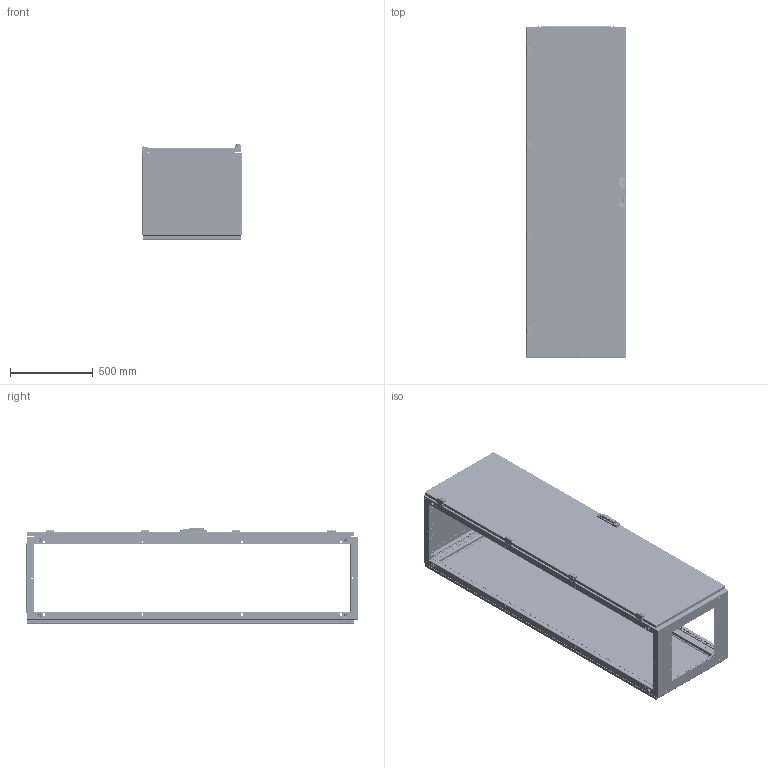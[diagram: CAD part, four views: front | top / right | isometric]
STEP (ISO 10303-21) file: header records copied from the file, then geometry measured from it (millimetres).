
FILE_DESCRIPTION (( 'STEP AP214' ), '1' );
FILE_NAME ('QA200605.step', '2011-08-10T06:55:48', ( 'Radek Veselý' ), ( 'Siemens and Partners' ), 'SwSTEP 2.0', 'SolidWorks 2006303', '' );
FILE_SCHEMA (( 'AUTOMOTIVE_DESIGN' ));
Length unit declared in the file: millimetre
Products named in the file (1): QA200605
Bounding box: 600 x 2004.5 x 576 mm (x, y, z)
Volume: 9133107.8 mm3; surface area: 10517109.1 mm2
Topology: 94 solids, 94 shells, 6695 faces, 18180 edges, 11672 vertices
Faces by surface type: plane 3592, cylinder 2539, cone 292, torus 164, sphere 60, bspline 48
Entity records: 291608 total; most frequent: CARTESIAN_POINT 38998, DIRECTION 36872, ORIENTED_EDGE 35968, EDGE_CURVE 17984, AXIS2_PLACEMENT_3D 12437, VECTOR 11998, LINE 11998, VERTEX_POINT 11656
